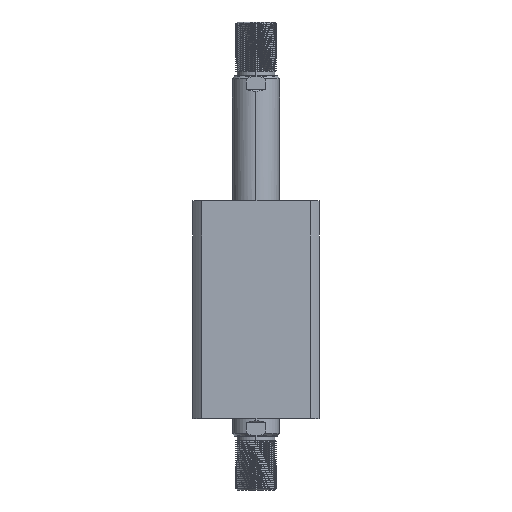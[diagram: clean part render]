
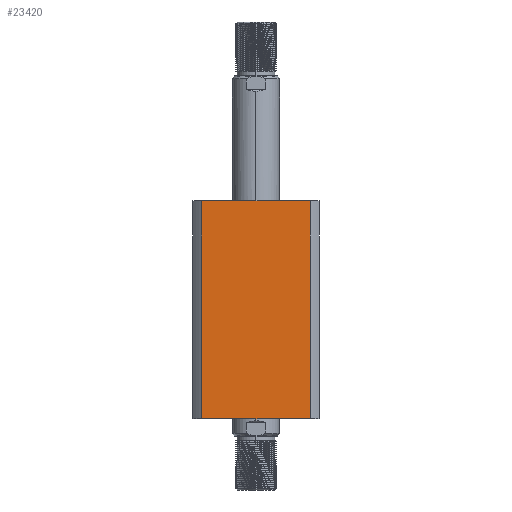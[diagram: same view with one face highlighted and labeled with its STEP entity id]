
A CAD part, left-side view. The second image highlights one B-rep face of the part: STEP entity #23420.
In plain terms, the highlighted planar face has unit normal (-1, 0, 0).
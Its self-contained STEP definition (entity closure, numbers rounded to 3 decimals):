
#194 = EDGE_CURVE ( 'NONE', #27360, #1704, #10733, .T. ) ;
#471 = ORIENTED_EDGE ( 'NONE', *, *, #24664, .F. ) ;
#1694 = DIRECTION ( 'NONE',  ( 0., 1., 0. ) ) ;
#1704 = VERTEX_POINT ( 'NONE', #4114 ) ;
#1877 = FACE_OUTER_BOUND ( 'NONE', #9599, .T. ) ;
#3549 = PLANE ( 'NONE',  #4122 ) ;
#4001 = ORIENTED_EDGE ( 'NONE', *, *, #194, .F. ) ;
#4114 = CARTESIAN_POINT ( 'NONE',  ( -47., -40.435, 162. ) ) ;
#4122 = AXIS2_PLACEMENT_3D ( 'NONE', #27239, #14436, #1694 ) ;
#5100 = CARTESIAN_POINT ( 'NONE',  ( -47., 40.435, 300. ) ) ;
#5544 = LINE ( 'NONE', #23308, #10563 ) ;
#6022 = VERTEX_POINT ( 'NONE', #25925 ) ;
#6257 = EDGE_CURVE ( 'NONE', #6022, #27360, #13742, .T. ) ;
#8066 = VECTOR ( 'NONE', #9371, 1000. ) ;
#9371 = DIRECTION ( 'NONE',  ( 0., 0., 1. ) ) ;
#9599 = EDGE_LOOP ( 'NONE', ( #471, #4001, #24697, #19702 ) ) ;
#10122 = CARTESIAN_POINT ( 'NONE',  ( -47., 47., 0. ) ) ;
#10563 = VECTOR ( 'NONE', #10593, 1000. ) ;
#10593 = DIRECTION ( 'NONE',  ( 0., 0., -1. ) ) ;
#10733 = LINE ( 'NONE', #15149, #15736 ) ;
#13742 = LINE ( 'NONE', #5100, #8066 ) ;
#14436 = DIRECTION ( 'NONE',  ( 1., 0., 0. ) ) ;
#15149 = CARTESIAN_POINT ( 'NONE',  ( -47., 47., 162. ) ) ;
#15736 = VECTOR ( 'NONE', #25820, 1000. ) ;
#18514 = VECTOR ( 'NONE', #20672, 1000. ) ;
#18678 = VERTEX_POINT ( 'NONE', #22297 ) ;
#19702 = ORIENTED_EDGE ( 'NONE', *, *, #26615, .T. ) ;
#19897 = LINE ( 'NONE', #10122, #18514 ) ;
#20672 = DIRECTION ( 'NONE',  ( 0., -1., 0. ) ) ;
#22297 = CARTESIAN_POINT ( 'NONE',  ( -47., -40.435, 0. ) ) ;
#23308 = CARTESIAN_POINT ( 'NONE',  ( -47., -40.435, 300. ) ) ;
#23420 = ADVANCED_FACE ( 'NONE', ( #1877 ), #3549, .F. ) ;
#24401 = CARTESIAN_POINT ( 'NONE',  ( -47., 40.435, 162. ) ) ;
#24664 = EDGE_CURVE ( 'NONE', #1704, #18678, #5544, .T. ) ;
#24697 = ORIENTED_EDGE ( 'NONE', *, *, #6257, .F. ) ;
#25820 = DIRECTION ( 'NONE',  ( 0., -1., 0. ) ) ;
#25925 = CARTESIAN_POINT ( 'NONE',  ( -47., 40.435, 0. ) ) ;
#26615 = EDGE_CURVE ( 'NONE', #6022, #18678, #19897, .T. ) ;
#27239 = CARTESIAN_POINT ( 'NONE',  ( -47., 47., 162. ) ) ;
#27360 = VERTEX_POINT ( 'NONE', #24401 ) ;
